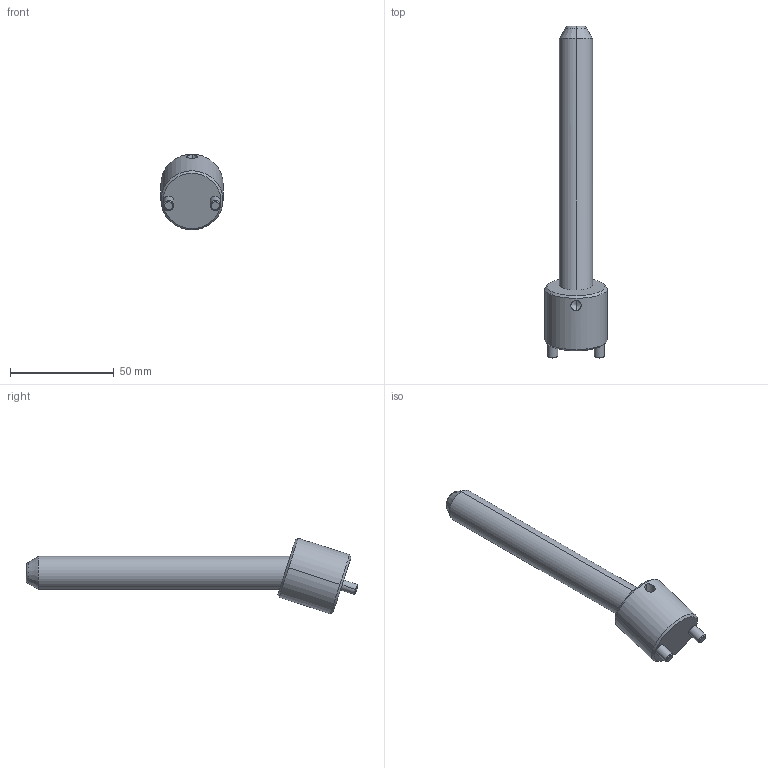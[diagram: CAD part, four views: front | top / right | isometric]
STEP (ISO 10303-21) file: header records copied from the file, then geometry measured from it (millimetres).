
FILE_DESCRIPTION(('CATIA V5 STEP Exchange'),'2;1');
FILE_NAME('C:\Users\Raffaele\Desktop\3D BOLEX\3D FILES CF BOLEX\19-INCLINED ASSEMBLY REF_CI\CI1816125.stp','2019-06-24T07:43:22+00:00',('none'),('none'),'CATIA Version 5 Release 20 GA (IN-10)','CATIA V5 STEP AP203','none');
FILE_SCHEMA(('CONFIG_CONTROL_DESIGN'));
Length unit declared in the file: millimetre
Products named in the file (1): CI1816125
Assembly tree (2 placements, depth 2):
  CI1816125
    #58
    #578
Bounding box: 30 x 160.31 x 36.57 mm (x, y, z)
Volume: 44388.2 mm3; surface area: 13211 mm2
Topology: 2 solids, 2 shells, 39 faces, 82 edges, 47 vertices
Faces by surface type: cone 14, cylinder 14, plane 7, torus 4
Entity records: 1473 total; most frequent: CARTESIAN_POINT 612, ORIENTED_EDGE 160, DIRECTION 146, EDGE_CURVE 80, AXIS2_PLACEMENT_3D 73, VERTEX_POINT 47, EDGE_LOOP 43, ADVANCED_FACE 39
